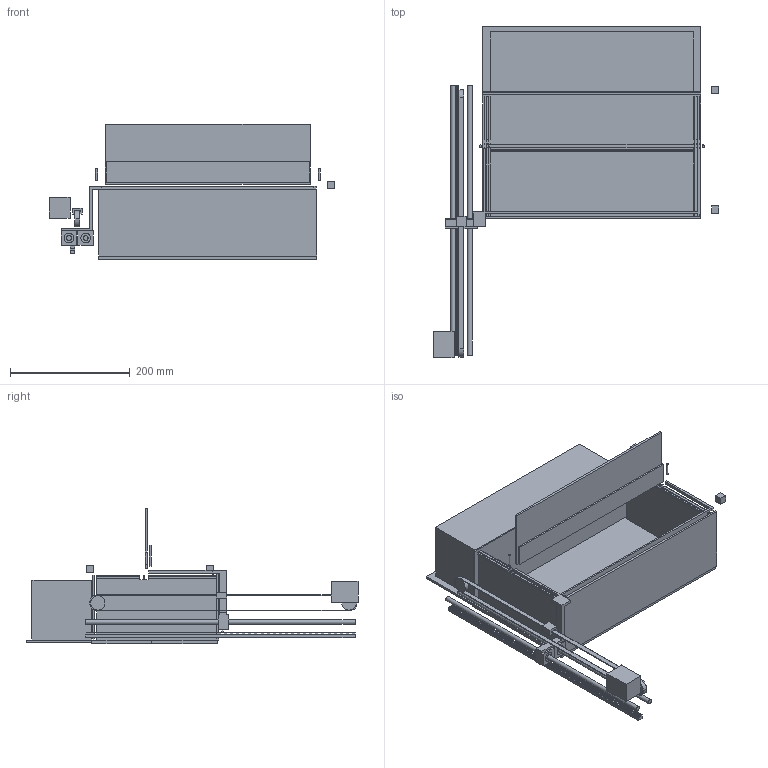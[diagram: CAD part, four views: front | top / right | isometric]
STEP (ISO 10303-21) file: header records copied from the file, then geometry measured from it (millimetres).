
FILE_DESCRIPTION(('FreeCAD Model'),'2;1');
FILE_NAME('Open CASCADE Shape Model','2026-10-19T11:28:27',('FreeCAD'),( 'FreeCAD'),'Open CASCADE STEP processor 7.8','FreeCAD','Unknown');
FILE_SCHEMA(('AUTOMOTIVE_DESIGN { 1 0 10303 214 1 1 1 1 }'));
Length unit declared in the file: millimetre
Products named in the file (1): Open CASCADE STEP translator 7.8 28
Bounding box: 477.5 x 555 x 226 mm (x, y, z)
Volume: 4914368.3 mm3; surface area: 940682.9 mm2
Topology: 33 solids, 33 shells, 1182 faces, 3345 edges, 2230 vertices
Faces by surface type: plane 1164, cylinder 18
Full cylindrical faces by diameter (mm): 4 x2, 8 x2, 8.5 x2, 16 x4, 24 x2
Entity records: 37471 total; most frequent: CARTESIAN_POINT 6758, ORIENTED_EDGE 6690, DIRECTION 5747, EDGE_CURVE 3345, LINE 3309, VECTOR 3309, VERTEX_POINT 2230, AXIS2_PLACEMENT_3D 1219
